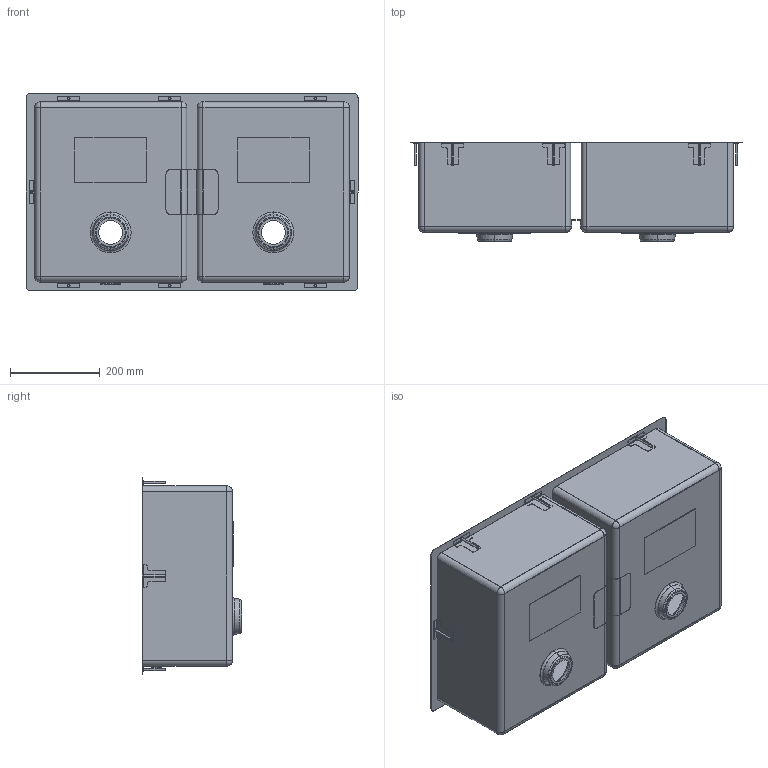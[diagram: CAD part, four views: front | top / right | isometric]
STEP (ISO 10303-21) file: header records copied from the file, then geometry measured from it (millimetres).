
FILE_DESCRIPTION (( 'STEP AP203' ), '1' );
FILE_NAME ('Matra 74x44 2v.STEP', '2021-01-27T15:53:43', ( 'Utente Windows' ), ( '' ), 'SwSTEP 2.0', 'SolidWorks 2020', '' );
FILE_SCHEMA (( 'CONFIG_CONTROL_DESIGN' ));
Length unit declared in the file: millimetre
Products named in the file (14): Ass. GB17P6; TF11 - smorzante 160x100x1,8; GB17P1 - base gancio_Piegato; Matra 74x44 2v; Matra - piletta integrata_74x44 2v SMEG; GB17P4 - inserto filettato M5; RC16 piegato
Assembly tree (28 placements, depth 3):
  Matra 74x44 2v
    Matra - piletta integrata_74x44 2v SMEG
    Ass. GB17P6
      GB17P1 - base gancio_Piegato
      GB17P4 - inserto filettato M5
    TF11 - smorzante 160x100x1,8  x2
    Ass. GB17P6
      GB17P1 - base gancio_Piegato
      GB17P4 - inserto filettato M5
    RC16 piegato
    Ass. GB17P6
      GB17P1 - base gancio_Piegato
      GB17P4 - inserto filettato M5
    Ass. GB17P6
      GB17P1 - base gancio_Piegato
      GB17P4 - inserto filettato M5
    Ass. GB17P6
      GB17P1 - base gancio_Piegato
      GB17P4 - inserto filettato M5
    Ass. GB17P6
      GB17P1 - base gancio_Piegato
      GB17P4 - inserto filettato M5
    Ass. GB17P6
      GB17P1 - base gancio_Piegato
      GB17P4 - inserto filettato M5
    Ass. GB17P6
      GB17P1 - base gancio_Piegato
      GB17P4 - inserto filettato M5
Bounding box: 740 x 221.9 x 440 mm (x, y, z)
Volume: 902899.5 mm3; surface area: 1931617.8 mm2
Topology: 20 solids, 20 shells, 542 faces, 1342 edges, 828 vertices
Faces by surface type: plane 284, cylinder 186, cone 40, torus 16, sphere 16
Entity records: 11276 total; most frequent: DIRECTION 1750, CARTESIAN_POINT 1658, ORIENTED_EDGE 1564, EDGE_CURVE 782, AXIS2_PLACEMENT_3D 640, VERTEX_POINT 484, LINE 470, VECTOR 470
